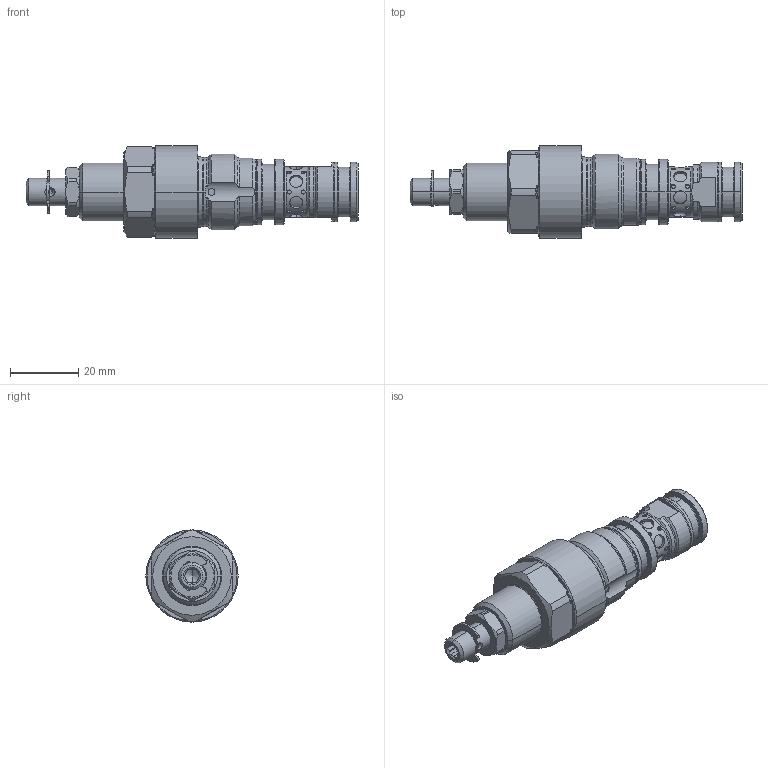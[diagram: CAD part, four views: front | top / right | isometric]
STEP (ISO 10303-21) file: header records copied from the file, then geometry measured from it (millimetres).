
FILE_DESCRIPTION (( 'STEP AP214' ), '1' );
FILE_NAME ('2_5_674_UB_PU10.STEP', '2025-09-11T06:04:03', ( '' ), ( '' ), 'SwSTEP 2.0', 'SolidWorks 2024', '' );
FILE_SCHEMA (( 'AUTOMOTIVE_DESIGN' ));
Length unit declared in the file: millimetre
Products named in the file (1): 2_5_674_UB_PU10
Bounding box: 97.18 x 27 x 27 mm (x, y, z)
Volume: 27698 mm3; surface area: 7487.1 mm2
Topology: 1 solids, 2 shells, 305 faces, 741 edges, 468 vertices
Faces by surface type: cylinder 137, plane 66, cone 64, torus 38
Entity records: 10558 total; most frequent: CARTESIAN_POINT 3578, ORIENTED_EDGE 1476, DIRECTION 1415, EDGE_CURVE 738, AXIS2_PLACEMENT_3D 593, VERTEX_POINT 468, EDGE_LOOP 342, ADVANCED_FACE 305
